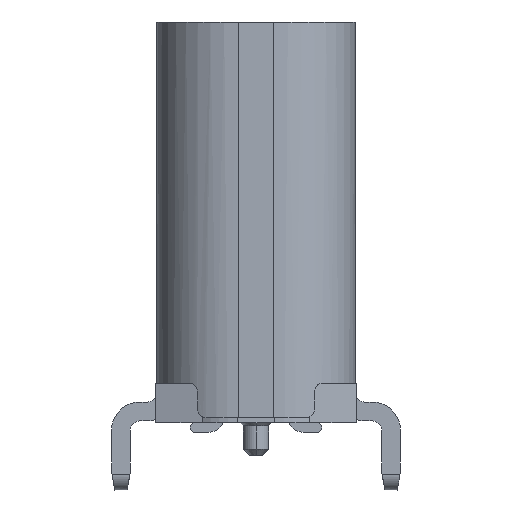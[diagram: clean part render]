
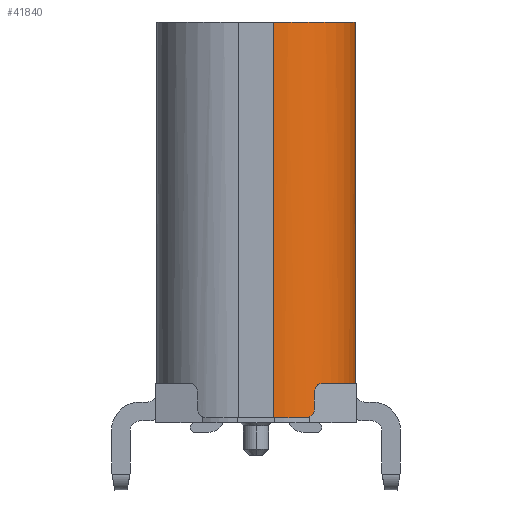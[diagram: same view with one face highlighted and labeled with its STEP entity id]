
A CAD part, left-side view. The second image highlights one B-rep face of the part: STEP entity #41840.
In plain terms, the highlighted cylindrical face has radius 1.3 mm (diameter 2.6 mm), a partial arc.
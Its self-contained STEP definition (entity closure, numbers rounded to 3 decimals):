
#521 = CARTESIAN_POINT ( 'NONE',  ( -3.822, -1.404, -0.85 ) ) ;
#1015 = LINE ( 'NONE', #18385, #17183 ) ;
#1042 = EDGE_LOOP ( 'NONE', ( #26358, #27392, #44118, #24815, #3016, #41600, #14624, #4559, #23169, #8842 ) ) ;
#1348 = EDGE_CURVE ( 'NONE', #37339, #7341, #9623, .T. ) ;
#1956 = CARTESIAN_POINT ( 'NONE',  ( -4.271, -0.971, -0.89 ) ) ;
#2279 = CARTESIAN_POINT ( 'NONE',  ( -3.17, -0.28, -1.4 ) ) ;
#2766 = DIRECTION ( 'NONE',  ( -0.803, -0.597, 0. ) ) ;
#3016 = ORIENTED_EDGE ( 'NONE', *, *, #11264, .T. ) ;
#3418 = VECTOR ( 'NONE', #23233, 1000. ) ;
#4209 = CIRCLE ( 'NONE', #44854, 1.3 ) ;
#4277 = DIRECTION ( 'NONE',  ( 0., 0., 1. ) ) ;
#4559 = ORIENTED_EDGE ( 'NONE', *, *, #39512, .F. ) ;
#4852 = CARTESIAN_POINT ( 'NONE',  ( -4.47, -0.28, 4.9 ) ) ;
#5377 = CARTESIAN_POINT ( 'NONE',  ( -3.17, -0.28, -0.85 ) ) ;
#5429 = CARTESIAN_POINT ( 'NONE',  ( -4.266, -0.979, -0.882 ) ) ;
#6464 = VERTEX_POINT ( 'NONE', #20929 ) ;
#7119 = CARTESIAN_POINT ( 'NONE',  ( -4.47, -0.28, -1.4 ) ) ;
#7167 = CARTESIAN_POINT ( 'NONE',  ( -4.307, -0.911, -1.329 ) ) ;
#7257 = CARTESIAN_POINT ( 'NONE',  ( -4.292, -0.937, -0.947 ) ) ;
#7341 = VERTEX_POINT ( 'NONE', #4852 ) ;
#7635 = CARTESIAN_POINT ( 'NONE',  ( -4.309, -0.906, -1.336 ) ) ;
#8460 = DIRECTION ( 'NONE',  ( -0.502, -0.865, 0. ) ) ;
#8842 = ORIENTED_EDGE ( 'NONE', *, *, #41002, .T. ) ;
#9623 = CIRCLE ( 'NONE', #25162, 1.3 ) ;
#10425 = DIRECTION ( 'NONE',  ( -0.096, -0.995, 0. ) ) ;
#10838 = EDGE_CURVE ( 'NONE', #44680, #42550, #33303, .T. ) ;
#11107 = CARTESIAN_POINT ( 'NONE',  ( -4.363, -0.796, -1.4 ) ) ;
#11264 = EDGE_CURVE ( 'NONE', #37953, #42550, #33137, .T. ) ;
#11753 = LINE ( 'NONE', #39778, #20767 ) ;
#12589 = EDGE_CURVE ( 'NONE', #6464, #44680, #11753, .T. ) ;
#12594 = CARTESIAN_POINT ( 'NONE',  ( -4.236, -1.025, -0.853 ) ) ;
#12795 = LINE ( 'NONE', #26231, #3418 ) ;
#13202 = CARTESIAN_POINT ( 'NONE',  ( -4.296, -0.93, -1.25 ) ) ;
#13899 = CARTESIAN_POINT ( 'NONE',  ( -4.349, -0.83, -1.4 ) ) ;
#14014 = EDGE_CURVE ( 'NONE', #37953, #7341, #12795, .T. ) ;
#14424 = CARTESIAN_POINT ( 'NONE',  ( -4.296, -0.93, -0.971 ) ) ;
#14624 = ORIENTED_EDGE ( 'NONE', *, *, #12589, .F. ) ;
#15668 = DIRECTION ( 'NONE',  ( 0., 0., -1. ) ) ;
#16089 = CARTESIAN_POINT ( 'NONE',  ( -3.17, -0.28, -0.85 ) ) ;
#17183 = VECTOR ( 'NONE', #25084, 1000. ) ;
#17558 = CARTESIAN_POINT ( 'NONE',  ( -3.295, -1.574, -0.85 ) ) ;
#18168 = CARTESIAN_POINT ( 'NONE',  ( -3.17, -0.28, -1.526 ) ) ;
#18385 = CARTESIAN_POINT ( 'NONE',  ( -3.17, -1.58, 4.9 ) ) ;
#18647 = EDGE_CURVE ( 'NONE', #37852, #24392, #39838, .T. ) ;
#19574 = CARTESIAN_POINT ( 'NONE',  ( -4.269, -0.974, -0.887 ) ) ;
#19832 = CARTESIAN_POINT ( 'NONE',  ( -3.17, -1.58, 4.9 ) ) ;
#20767 = VECTOR ( 'NONE', #15668, 1000. ) ;
#20929 = CARTESIAN_POINT ( 'NONE',  ( -4.296, -0.93, -1. ) ) ;
#22230 = CARTESIAN_POINT ( 'NONE',  ( -4.363, -0.796, -1.4 ) ) ;
#22760 = CARTESIAN_POINT ( 'NONE',  ( -3.17, -1.58, -0.85 ) ) ;
#23169 = ORIENTED_EDGE ( 'NONE', *, *, #32441, .T. ) ;
#23233 = DIRECTION ( 'NONE',  ( 0., 0., 1. ) ) ;
#24392 = VERTEX_POINT ( 'NONE', #22760 ) ;
#24546 = CARTESIAN_POINT ( 'NONE',  ( -4.312, -0.9, -1.345 ) ) ;
#24652 = DIRECTION ( 'NONE',  ( 1., 0., 0. ) ) ;
#24770 = B_SPLINE_CURVE_WITH_KNOTS ( 'NONE', 3,
 ( #30650, #37153, #12594, #44781, #27178, #27406, #5429, #19574, #1956, #44323, #37367, #27643, #7257, #14424, #41768 ),
 .UNSPECIFIED., .F., .F.,
 ( 4, 2, 2, 1, 2, 2, 2, 4 ),
 ( 0., 0.25, 0.375, 0.437, 0.469, 0.5, 0.75, 1. ),
 .UNSPECIFIED. ) ;
#24815 = ORIENTED_EDGE ( 'NONE', *, *, #14014, .F. ) ;
#25084 = DIRECTION ( 'NONE',  ( 0., 0., -1. ) ) ;
#25162 = AXIS2_PLACEMENT_3D ( 'NONE', #37584, #27159, #41294 ) ;
#25338 = FACE_OUTER_BOUND ( 'NONE', #1042, .T. ) ;
#25353 = AXIS2_PLACEMENT_3D ( 'NONE', #5377, #40569, #2766 ) ;
#26231 = CARTESIAN_POINT ( 'NONE',  ( -4.47, -0.28, -1.4 ) ) ;
#26358 = ORIENTED_EDGE ( 'NONE', *, *, #18647, .T. ) ;
#27159 = DIRECTION ( 'NONE',  ( 0., 0., -1. ) ) ;
#27178 = CARTESIAN_POINT ( 'NONE',  ( -4.256, -0.995, -0.869 ) ) ;
#27323 = CARTESIAN_POINT ( 'NONE',  ( -4.296, -0.93, -1.279 ) ) ;
#27392 = ORIENTED_EDGE ( 'NONE', *, *, #32213, .F. ) ;
#27406 = CARTESIAN_POINT ( 'NONE',  ( -4.263, -0.984, -0.877 ) ) ;
#27643 = CARTESIAN_POINT ( 'NONE',  ( -4.282, -0.953, -0.913 ) ) ;
#28469 = CARTESIAN_POINT ( 'NONE',  ( -4.316, -0.893, -1.354 ) ) ;
#29322 = CARTESIAN_POINT ( 'NONE',  ( -3.17, -0.28, -0.85 ) ) ;
#30210 = DIRECTION ( 'NONE',  ( 0., 0., 1. ) ) ;
#30513 = DIRECTION ( 'NONE',  ( 0., 0., 1. ) ) ;
#30650 = CARTESIAN_POINT ( 'NONE',  ( -4.213, -1.056, -0.85 ) ) ;
#31928 = CARTESIAN_POINT ( 'NONE',  ( -4.296, -0.93, -1.25 ) ) ;
#32213 = EDGE_CURVE ( 'NONE', #37339, #24392, #1015, .T. ) ;
#32284 = CYLINDRICAL_SURFACE ( 'NONE', #42524, 1.3 ) ;
#32441 = EDGE_CURVE ( 'NONE', #38092, #42242, #41645, .T. ) ;
#33137 = CIRCLE ( 'NONE', #39054, 1.3 ) ;
#33303 = B_SPLINE_CURVE_WITH_KNOTS ( 'NONE', 3,
 ( #13202, #27323, #39366, #7167, #7635, #24546, #38894, #42833, #45628, #28469, #35659, #13899, #11107 ),
 .UNSPECIFIED., .F., .F.,
 ( 4, 2, 2, 1, 2, 2, 4 ),
 ( 0., 0.25, 0.375, 0.438, 0.469, 0.5, 1. ),
 .UNSPECIFIED. ) ;
#35405 = AXIS2_PLACEMENT_3D ( 'NONE', #29322, #39760, #10425 ) ;
#35659 = CARTESIAN_POINT ( 'NONE',  ( -4.331, -0.866, -1.385 ) ) ;
#36083 = CARTESIAN_POINT ( 'NONE',  ( -4.213, -1.056, -0.85 ) ) ;
#37153 = CARTESIAN_POINT ( 'NONE',  ( -4.224, -1.041, -0.85 ) ) ;
#37339 = VERTEX_POINT ( 'NONE', #19832 ) ;
#37367 = CARTESIAN_POINT ( 'NONE',  ( -4.277, -0.961, -0.901 ) ) ;
#37584 = CARTESIAN_POINT ( 'NONE',  ( -3.17, -0.28, 4.9 ) ) ;
#37683 = DIRECTION ( 'NONE',  ( -1., 0., 0. ) ) ;
#37852 = VERTEX_POINT ( 'NONE', #17558 ) ;
#37953 = VERTEX_POINT ( 'NONE', #7119 ) ;
#38092 = VERTEX_POINT ( 'NONE', #36083 ) ;
#38894 = CARTESIAN_POINT ( 'NONE',  ( -4.314, -0.897, -1.349 ) ) ;
#39054 = AXIS2_PLACEMENT_3D ( 'NONE', #2279, #30513, #37683 ) ;
#39366 = CARTESIAN_POINT ( 'NONE',  ( -4.3, -0.923, -1.303 ) ) ;
#39512 = EDGE_CURVE ( 'NONE', #38092, #6464, #24770, .T. ) ;
#39760 = DIRECTION ( 'NONE',  ( 0., 0., 1. ) ) ;
#39778 = CARTESIAN_POINT ( 'NONE',  ( -4.296, -0.93, -1. ) ) ;
#39838 = CIRCLE ( 'NONE', #35405, 1.3 ) ;
#40569 = DIRECTION ( 'NONE',  ( 0., 0., 1. ) ) ;
#41002 = EDGE_CURVE ( 'NONE', #42242, #37852, #4209, .T. ) ;
#41294 = DIRECTION ( 'NONE',  ( 0., -1., 0. ) ) ;
#41600 = ORIENTED_EDGE ( 'NONE', *, *, #10838, .F. ) ;
#41645 = CIRCLE ( 'NONE', #25353, 1.3 ) ;
#41768 = CARTESIAN_POINT ( 'NONE',  ( -4.296, -0.93, -1. ) ) ;
#41840 = ADVANCED_FACE ( 'NONE', ( #25338 ), #32284, .T. ) ;
#42242 = VERTEX_POINT ( 'NONE', #521 ) ;
#42524 = AXIS2_PLACEMENT_3D ( 'NONE', #18168, #4277, #24652 ) ;
#42550 = VERTEX_POINT ( 'NONE', #22230 ) ;
#42833 = CARTESIAN_POINT ( 'NONE',  ( -4.315, -0.895, -1.352 ) ) ;
#44118 = ORIENTED_EDGE ( 'NONE', *, *, #1348, .T. ) ;
#44323 = CARTESIAN_POINT ( 'NONE',  ( -4.273, -0.968, -0.893 ) ) ;
#44680 = VERTEX_POINT ( 'NONE', #31928 ) ;
#44781 = CARTESIAN_POINT ( 'NONE',  ( -4.251, -1.002, -0.864 ) ) ;
#44854 = AXIS2_PLACEMENT_3D ( 'NONE', #16089, #30210, #8460 ) ;
#45628 = CARTESIAN_POINT ( 'NONE',  ( -4.316, -0.893, -1.354 ) ) ;
